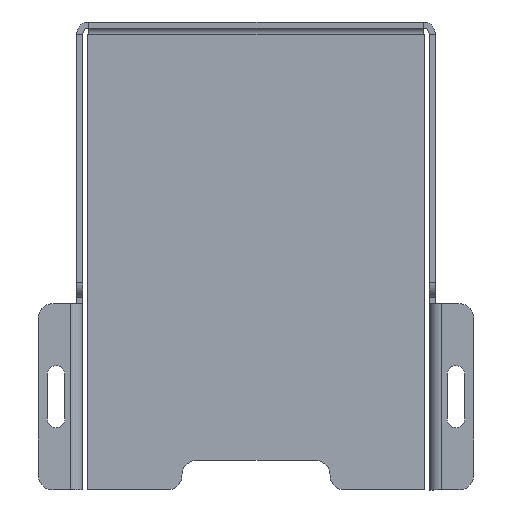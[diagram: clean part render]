
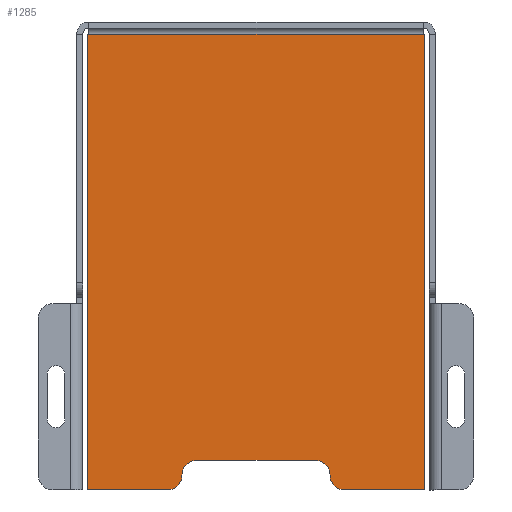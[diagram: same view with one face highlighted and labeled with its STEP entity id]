
A CAD part, front view. The second image highlights one B-rep face of the part: STEP entity #1285.
In plain terms, the highlighted planar face has unit normal (0, -1, 0).
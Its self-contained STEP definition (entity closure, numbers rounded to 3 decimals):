
#33=PLANE('',#1401);
#97=FACE_OUTER_BOUND('',#177,.T.);
#177=EDGE_LOOP('',(#989,#990,#991,#992,#993,#994,#995,#996,#997,#998,#999,
#1000));
#246=LINE('',#1916,#386);
#248=LINE('',#1923,#388);
#303=LINE('',#2068,#443);
#304=LINE('',#2071,#444);
#305=LINE('',#2073,#445);
#306=LINE('',#2075,#446);
#307=LINE('',#2077,#447);
#308=LINE('',#2078,#448);
#386=VECTOR('',#1518,10.);
#388=VECTOR('',#1526,10.);
#443=VECTOR('',#1647,10.);
#444=VECTOR('',#1650,10.);
#445=VECTOR('',#1651,10.);
#446=VECTOR('',#1652,10.);
#447=VECTOR('',#1653,10.);
#448=VECTOR('',#1654,10.);
#514=CIRCLE('',#1355,5.);
#518=CIRCLE('',#1361,5.);
#519=CIRCLE('',#1363,5.);
#520=CIRCLE('',#1366,5.);
#563=VERTEX_POINT('',#1878);
#564=VERTEX_POINT('',#1880);
#575=VERTEX_POINT('',#1906);
#576=VERTEX_POINT('',#1910);
#577=VERTEX_POINT('',#1912);
#578=VERTEX_POINT('',#1918);
#579=VERTEX_POINT('',#1922);
#636=VERTEX_POINT('',#2066);
#637=VERTEX_POINT('',#2070);
#638=VERTEX_POINT('',#2072);
#639=VERTEX_POINT('',#2074);
#640=VERTEX_POINT('',#2076);
#675=EDGE_CURVE('',#563,#564,#514,.T.);
#688=EDGE_CURVE('',#564,#575,#518,.T.);
#691=EDGE_CURVE('',#576,#577,#519,.T.);
#693=EDGE_CURVE('',#576,#575,#246,.T.);
#694=EDGE_CURVE('',#577,#578,#520,.T.);
#696=EDGE_CURVE('',#579,#578,#248,.T.);
#767=EDGE_CURVE('',#563,#636,#303,.T.);
#768=EDGE_CURVE('',#637,#636,#304,.T.);
#769=EDGE_CURVE('',#638,#637,#305,.T.);
#770=EDGE_CURVE('',#638,#639,#306,.T.);
#771=EDGE_CURVE('',#639,#640,#307,.T.);
#772=EDGE_CURVE('',#640,#579,#308,.T.);
#989=ORIENTED_EDGE('',*,*,#675,.F.);
#990=ORIENTED_EDGE('',*,*,#767,.T.);
#991=ORIENTED_EDGE('',*,*,#768,.F.);
#992=ORIENTED_EDGE('',*,*,#769,.F.);
#993=ORIENTED_EDGE('',*,*,#770,.T.);
#994=ORIENTED_EDGE('',*,*,#771,.T.);
#995=ORIENTED_EDGE('',*,*,#772,.T.);
#996=ORIENTED_EDGE('',*,*,#696,.T.);
#997=ORIENTED_EDGE('',*,*,#694,.F.);
#998=ORIENTED_EDGE('',*,*,#691,.F.);
#999=ORIENTED_EDGE('',*,*,#693,.T.);
#1000=ORIENTED_EDGE('',*,*,#688,.F.);
#1285=ADVANCED_FACE('',(#97),#33,.T.);
#1355=AXIS2_PLACEMENT_3D('',#1881,#1486,#1487);
#1361=AXIS2_PLACEMENT_3D('',#1907,#1507,#1508);
#1363=AXIS2_PLACEMENT_3D('',#1913,#1513,#1514);
#1366=AXIS2_PLACEMENT_3D('',#1919,#1521,#1522);
#1401=AXIS2_PLACEMENT_3D('',#2069,#1648,#1649);
#1486=DIRECTION('center_axis',(0.,1.,0.));
#1487=DIRECTION('ref_axis',(-0.707,0.,-0.707));
#1507=DIRECTION('center_axis',(0.,-1.,0.));
#1508=DIRECTION('ref_axis',(0.707,0.,0.707));
#1513=DIRECTION('center_axis',(0.,-1.,0.));
#1514=DIRECTION('ref_axis',(-0.707,0.,0.707));
#1518=DIRECTION('',(1.,0.,0.));
#1521=DIRECTION('center_axis',(0.,1.,0.));
#1522=DIRECTION('ref_axis',(0.707,0.,-0.707));
#1526=DIRECTION('',(1.,0.,0.));
#1647=DIRECTION('',(1.,0.,0.));
#1648=DIRECTION('center_axis',(0.,-1.,0.));
#1649=DIRECTION('ref_axis',(-1.,0.,0.));
#1650=DIRECTION('',(0.,0.,-1.));
#1651=DIRECTION('',(1.,0.,0.));
#1652=DIRECTION('',(-1.,0.,0.));
#1653=DIRECTION('',(-1.,0.,0.));
#1654=DIRECTION('',(0.,0.,-1.));
#1878=CARTESIAN_POINT('',(88.5,241.,-155.95));
#1880=CARTESIAN_POINT('',(83.5,241.,-150.95));
#1881=CARTESIAN_POINT('Origin',(88.5,241.,-150.95));
#1906=CARTESIAN_POINT('',(78.5,241.,-145.95));
#1907=CARTESIAN_POINT('Origin',(78.5,241.,-150.95));
#1910=CARTESIAN_POINT('',(38.5,241.,-145.95));
#1912=CARTESIAN_POINT('',(33.5,241.,-150.95));
#1913=CARTESIAN_POINT('Origin',(38.5,241.,-150.95));
#1916=CARTESIAN_POINT('',(71.,241.,-145.95));
#1918=CARTESIAN_POINT('',(28.5,241.,-155.95));
#1919=CARTESIAN_POINT('Origin',(28.5,241.,-150.95));
#1922=CARTESIAN_POINT('',(1.45,241.,-155.95));
#1923=CARTESIAN_POINT('',(1.45,241.,-155.95));
#2066=CARTESIAN_POINT('',(115.55,241.,-155.95));
#2068=CARTESIAN_POINT('',(1.45,241.,-155.95));
#2069=CARTESIAN_POINT('Origin',(58.5,241.,-76.692));
#2070=CARTESIAN_POINT('',(115.55,241.,-2.05));
#2071=CARTESIAN_POINT('',(115.55,241.,-2.05));
#2072=CARTESIAN_POINT('',(114.95,241.,-2.05));
#2073=CARTESIAN_POINT('',(114.95,241.,-2.05));
#2074=CARTESIAN_POINT('',(2.05,241.,-2.05));
#2075=CARTESIAN_POINT('',(58.5,241.,-2.05));
#2076=CARTESIAN_POINT('',(1.45,241.,-2.05));
#2077=CARTESIAN_POINT('',(2.05,241.,-2.05));
#2078=CARTESIAN_POINT('',(1.45,241.,-2.05));
